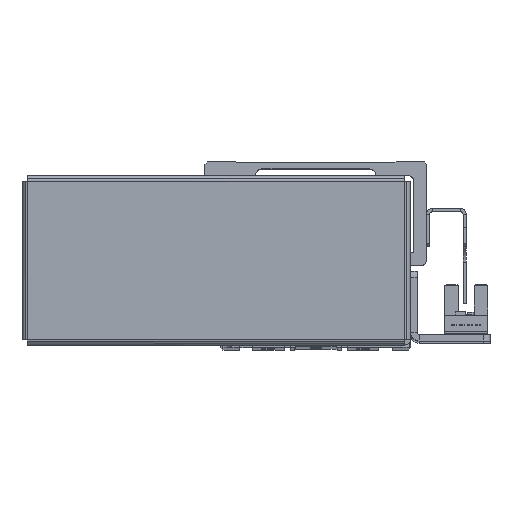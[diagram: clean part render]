
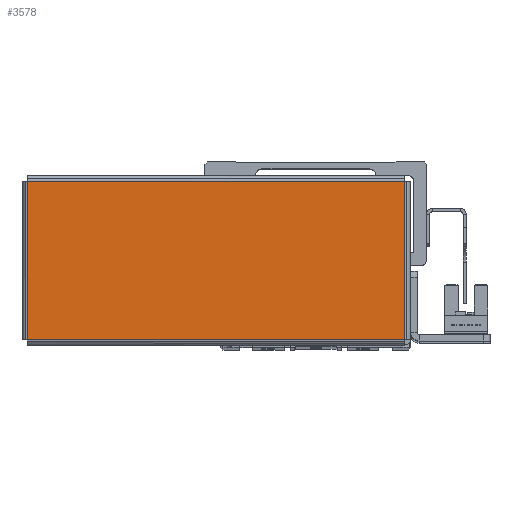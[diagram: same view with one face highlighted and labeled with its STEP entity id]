
A CAD part, top view. The second image highlights one B-rep face of the part: STEP entity #3578.
In plain terms, the highlighted planar face has unit normal (0, 0, 1) as drawn and (0, 0, -1) by its records, which use the part's own axes.
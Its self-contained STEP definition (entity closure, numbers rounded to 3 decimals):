
#231 = VERTEX_POINT ( 'NONE', #7712 ) ;
#240 = VERTEX_POINT ( 'NONE', #7730 ) ;
#256 = VERTEX_POINT ( 'NONE', #7734 ) ;
#257 = VERTEX_POINT ( 'NONE', #7722 ) ;
#3578 = ADVANCED_FACE ( 'NONE', ( #10224 ), #12100, .F. ) ;
#7712 = CARTESIAN_POINT ( 'NONE',  ( -59.513, 25.013, -1. ) ) ;
#7722 = CARTESIAN_POINT ( 'NONE',  ( -59.513, -25.013, -1. ) ) ;
#7730 = CARTESIAN_POINT ( 'NONE',  ( 59.513, -25.013, -1. ) ) ;
#7734 = CARTESIAN_POINT ( 'NONE',  ( 59.513, 25.013, -1. ) ) ;
#8117 = ORIENTED_EDGE ( 'NONE', *, *, #13412, .T. ) ;
#8153 = ORIENTED_EDGE ( 'NONE', *, *, #13420, .T. ) ;
#8199 = ORIENTED_EDGE ( 'NONE', *, *, #13441, .T. ) ;
#8216 = ORIENTED_EDGE ( 'NONE', *, *, #13396, .T. ) ;
#10224 = FACE_OUTER_BOUND ( 'NONE', #24081, .T. ) ;
#12100 = PLANE ( 'NONE',  #26032 ) ;
#12135 = DIRECTION ( 'NONE',  ( 0., 0., 1. ) ) ;
#12139 = DIRECTION ( 'NONE',  ( 1., 0., 0. ) ) ;
#12142 = CARTESIAN_POINT ( 'NONE',  ( 0., 0., -1. ) ) ;
#13396 = EDGE_CURVE ( 'NONE', #256, #240, #19383, .T. ) ;
#13412 = EDGE_CURVE ( 'NONE', #257, #231, #19429, .T. ) ;
#13420 = EDGE_CURVE ( 'NONE', #231, #256, #19403, .T. ) ;
#13441 = EDGE_CURVE ( 'NONE', #240, #257, #19495, .T. ) ;
#17607 = CARTESIAN_POINT ( 'NONE',  ( 59.513, 25.043, -1. ) ) ;
#17623 = DIRECTION ( 'NONE',  ( 0., -1., 0. ) ) ;
#17660 = DIRECTION ( 'NONE',  ( 0., 1., 0. ) ) ;
#17662 = DIRECTION ( 'NONE',  ( 1., 0., 0. ) ) ;
#17663 = CARTESIAN_POINT ( 'NONE',  ( -59.543, 25.013, -1. ) ) ;
#17682 = CARTESIAN_POINT ( 'NONE',  ( -59.513, -25.043, -1. ) ) ;
#17764 = DIRECTION ( 'NONE',  ( -1., 0., 0. ) ) ;
#17771 = CARTESIAN_POINT ( 'NONE',  ( 59.543, -25.013, -1. ) ) ;
#19325 = VECTOR ( 'NONE', #17623, 1000. ) ;
#19383 = LINE ( 'NONE', #17607, #19325 ) ;
#19403 = LINE ( 'NONE', #17663, #19449 ) ;
#19429 = LINE ( 'NONE', #17682, #19436 ) ;
#19436 = VECTOR ( 'NONE', #17660, 1000. ) ;
#19449 = VECTOR ( 'NONE', #17662, 1000. ) ;
#19495 = LINE ( 'NONE', #17771, #19506 ) ;
#19506 = VECTOR ( 'NONE', #17764, 1000. ) ;
#24081 = EDGE_LOOP ( 'NONE', ( #8216, #8199, #8117, #8153 ) ) ;
#26032 = AXIS2_PLACEMENT_3D ( 'NONE', #12142, #12135, #12139 ) ;
